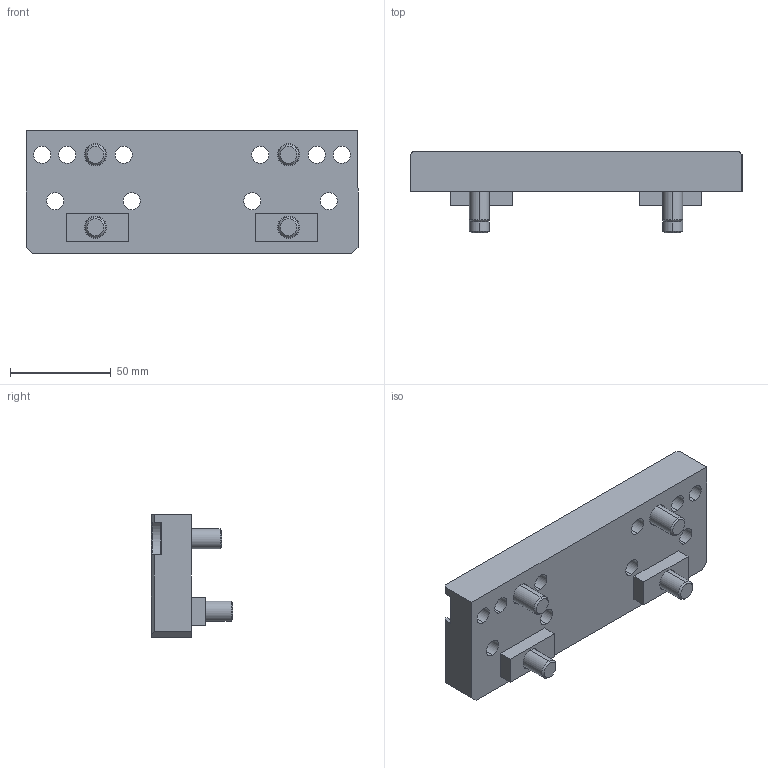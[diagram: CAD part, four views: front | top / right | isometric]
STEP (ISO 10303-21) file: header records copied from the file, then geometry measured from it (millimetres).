
FILE_DESCRIPTION (( 'STEP AP214' ), '1' );
FILE_NAME ('6921884005242_BackeTrexFIX_UNIGrip.STEP', '2009-02-24T13:38:04', ( 'Markus Römer' ), ( '' ), 'SwSTEP 2.0', 'SolidWorks 2008', '' );
FILE_SCHEMA (( 'AUTOMOTIVE_DESIGN' ));
Length unit declared in the file: millimetre
Products named in the file (1): 6921884005242_BackeTrexFIX_UNIGrip
Bounding box: 165 x 40.5 x 61 mm (x, y, z)
Volume: 182952.7 mm3; surface area: 44632.6 mm2
Topology: 1 solids, 1 shells, 306 faces, 760 edges, 478 vertices
Faces by surface type: plane 126, cylinder 116, cone 48, torus 16
Entity records: 9163 total; most frequent: DIRECTION 1658, CARTESIAN_POINT 1645, ORIENTED_EDGE 1504, EDGE_CURVE 752, AXIS2_PLACEMENT_3D 635, VERTEX_POINT 478, VECTOR 388, LINE 388
